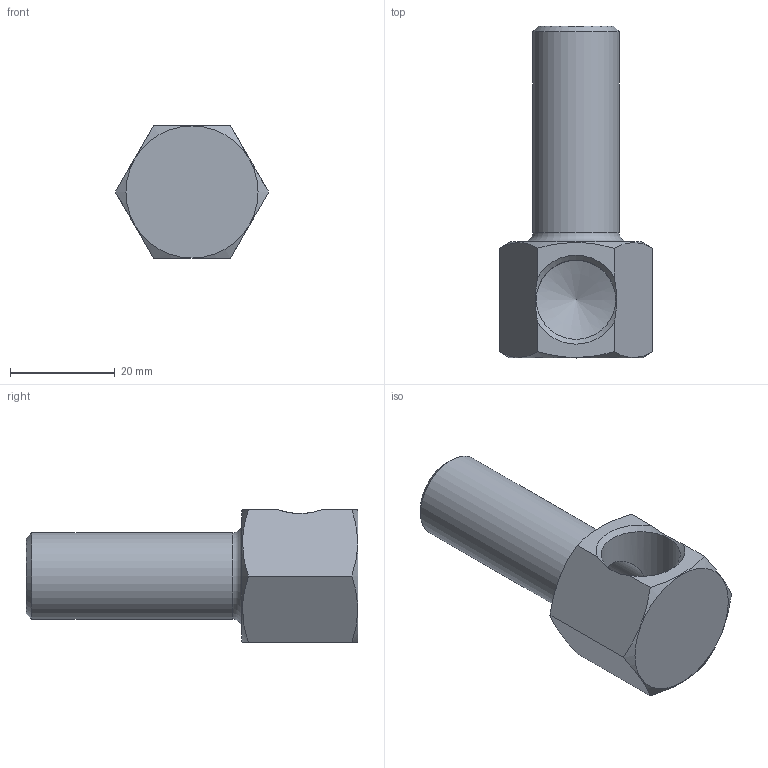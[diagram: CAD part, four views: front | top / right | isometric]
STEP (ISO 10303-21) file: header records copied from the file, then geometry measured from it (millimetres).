
FILE_DESCRIPTION(/* description */ (''),/* implementation_level */ '2;1');
FILE_NAME(/* name */ 'C:/Users/drich/Desktop/38B-2-1_2 v1.step',/* time_stamp */ '2019-12-29T15:23:19-06:00',/* author */ (''),/* organization */ (''),/* preprocessor_version */ 'ST-DEVELOPER v18',/* originating_system */ 'Autodesk Translation Framework v8.12.0.6',/* authorisation */ '');
FILE_SCHEMA (('AUTOMOTIVE_DESIGN { 1 0 10303 214 3 1 1 }'));
Length unit declared in the file: inch
Products named in the file (1): 38B-2-1_2
Bounding box: 29.33 x 63.5 x 25.4 mm (x, y, z)
Volume: 12549.1 mm3; surface area: 7455.3 mm2
Topology: 1 solids, 1 shells, 20 faces, 53 edges, 35 vertices
Faces by surface type: plane 10, cone 6, cylinder 3, torus 1
Full cylindrical faces by diameter (mm): 11.887 x1, 15.173 x1, 16.537 x1
Entity records: 687 total; most frequent: CARTESIAN_POINT 184, ORIENTED_EDGE 104, DIRECTION 91, EDGE_CURVE 52, AXIS2_PLACEMENT_3D 37, VERTEX_POINT 35, EDGE_LOOP 23, FACE_OUTER_BOUND 20
